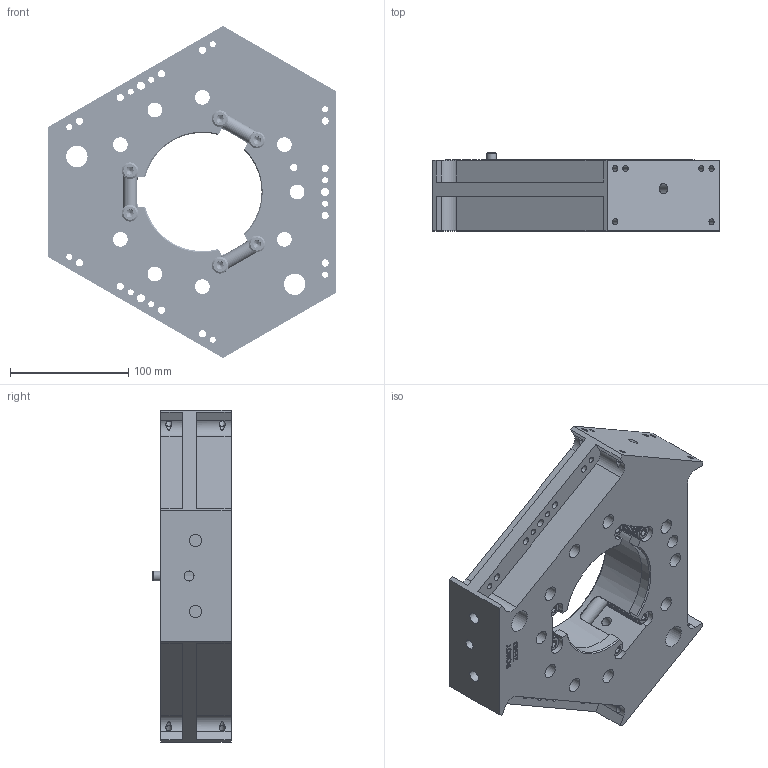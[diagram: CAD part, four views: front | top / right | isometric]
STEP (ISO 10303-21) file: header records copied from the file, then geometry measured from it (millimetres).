
FILE_DESCRIPTION (( 'STEP AP214' ), '1' );
FILE_NAME ('1500-D14A REV03.STEP', '2019-02-27T12:32:52', ( 'Any Employee' ), ( 'Applied Robotics Inc.' ), 'SwSTEP 2.0', 'SolidWorks 2019', '' );
FILE_SCHEMA (( 'AUTOMOTIVE_DESIGN' ));
Length unit declared in the file: millimetre
Products named in the file (7): 49778; 49621_Parallel Pin ISO 8734 - 12 x 35 - A - St; 1700178M; 1500-D14A REV03; 1800697P_91390A573; 1600-P58N; 0201-P86N
Assembly tree (14 placements, depth 2):
  1500-D14A REV03
    1700178M
    0201-P86N  x2
    49621_Parallel Pin ISO 8734 - 12 x 35 - A - St  x3
    1800697P_91390A573  x6
    49778
    1600-P58N
Bounding box: 242.92 x 66 x 280.5 mm (x, y, z)
Volume: 1828942 mm3; surface area: 246482.7 mm2
Topology: 14 solids, 14 shells, 1052 faces, 2696 edges, 1745 vertices
Faces by surface type: plane 552, bspline 247, cylinder 143, cone 102, sphere 6, torus 2
Full cylindrical faces by diameter (mm): 4.134 x1, 5 x22, 5.062 x4, 6 x3, 6.062 x12, 6.8 x4, 8 x1, 8.001 x1, 8.5 x3, 10.068 x2, 11.981 x2, 12 x3, 12.5 x9, 18.011 x2, 18.5 x9, 19 x2, 26.02 x2, 26.041 x2, 111.5 x1, 183 x1
Entity records: 45253 total; most frequent: CARTESIAN_POINT 24075, ORIENTED_EDGE 4502, DIRECTION 3368, EDGE_CURVE 2251, VERTEX_POINT 1544, VECTOR 1404, LINE 1404, EDGE_LOOP 1193
